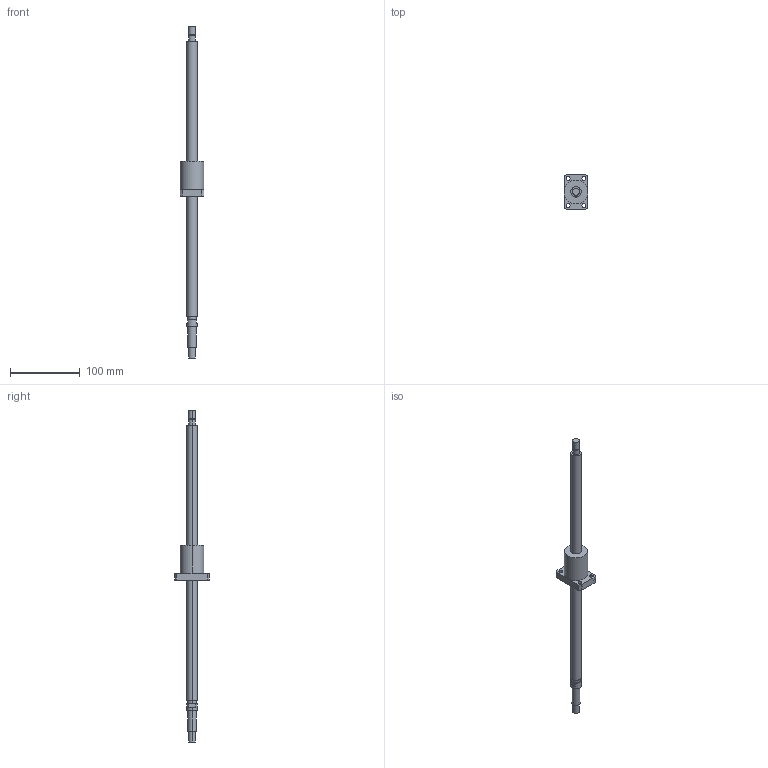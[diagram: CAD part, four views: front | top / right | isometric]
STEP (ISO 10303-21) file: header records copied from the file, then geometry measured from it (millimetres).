
FILE_DESCRIPTION((''),'2;1');
FILE_NAME('R15-10K3-FSC-389-471','2008-03-28T',('mahdi'),(''),'PRO/ENGINEER BY PARAMETRIC TECHNOLOGY CORPORATION, 2005070','PRO/ENGINEER BY PARAMETRIC TECHNOLOGY CORPORATION, 2005070','');
FILE_SCHEMA(('CONFIG_CONTROL_DESIGN'));
Length unit declared in the file: millimetre
Products named in the file (1): R15-10K3-FSC-389-471
Bounding box: 34 x 50 x 477 mm (x, y, z)
Volume: 120695 mm3; surface area: 29385.8 mm2
Topology: 1 solids, 1 shells, 66 faces, 148 edges, 96 vertices
Faces by surface type: cylinder 40, plane 26
Entity records: 1926 total; most frequent: DIRECTION 364, CARTESIAN_POINT 310, ORIENTED_EDGE 296, AXIS2_PLACEMENT_3D 150, EDGE_CURVE 148, VERTEX_POINT 96, EDGE_LOOP 86, CIRCLE 84
